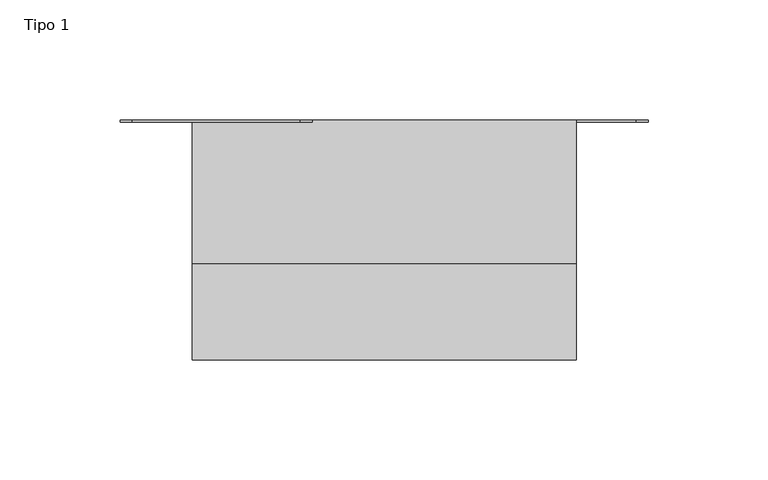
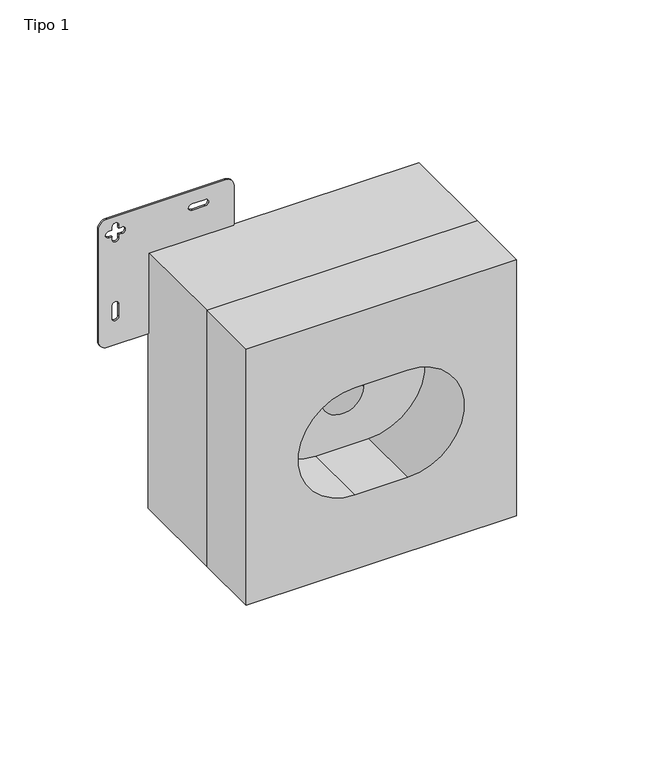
"""IFC4 building model written with IfcOpenShell, lengths in millimetres: proxy geometry, Zeus 503N : Tipo 1."""

from ifc_helpers import new_model, si_unit, point, frame, frame_2d, origin, place, context, project, spatial, polyline, circle_curve, trimmed, segment, composite_curve, outline, extrude, source, transform, mapped, element, save
from ifc_brep_helpers import plane_surface, revolved_surface, advanced_brep


def tipo_1_5fd8f887(model_context):
    return source(origin(), model_context, "Body", "SolidModel", [
        extrude(outline(polyline([(789.7029033, 205.0), (789.7029033, 45.0), (629.7029033, 45.0), (629.7029033, 205.0), (789.7029033, 205.0)]), holes=[composite_curve([segment(polyline([(743.2029033, 109.5071271), (743.2029033, 140.4928729)]), True, "CONTINUOUS"), segment(trimmed(circle_curve(frame_2d((709.7029033, 140.4928729)), 33.5), [point((743.2029033, 140.4928729))], [point((676.2029033, 140.4928729))], True, "CARTESIAN"), True, "CONTINUOUS"), segment(polyline([(676.2029033, 140.4928729), (676.2029033, 109.5071271)]), True, "CONTINUOUS"), segment(trimmed(circle_curve(frame_2d((709.7029033, 109.5071271)), 33.5), [point((676.2029033, 109.5071271))], [point((743.2029033, 109.5071271))], True, "CARTESIAN"), True, "CONTINUOUS")], self_intersect=False)]), frame((0.0, -175.0, 0.0), z_axis=(0.0, 1.0, 0.0), x_axis=(0.0, 0.0, 1.0)), (0.0, 0.0, 1.0), 40.0),
        advanced_brep(
        [(205.0, -135.0, 629.7029033), (205.0, -135.0, 789.7029033), (45.0, -135.0, 789.7029033), (45.0, -135.0, 629.7029033), (137.5, -135.0, 709.7029033), (112.5, -135.0, 709.7029033), (155.0, -75.0, 629.7029033), (45.0, -75.0, 629.7029033), (45.0, -75.0, 739.7029033), (70.2279221, -75.0, 739.7029033), (95.0, -75.0, 764.4749812), (95.0, -75.0, 789.7029033), (205.0, -75.0, 789.7029033), (205.0, -75.0, 679.7029033), (179.7720779, -75.0, 679.7029033), (155.0, -75.0, 654.9308254), (137.5, -75.0, 709.7029033), (112.5, -75.0, 709.7029033), (155.0, -76.0, 629.7029033), (205.0, -76.0, 629.7029033), (45.0, -76.0, 789.7029033), (45.0, -76.0, 739.7029033), (95.0, -76.0, 789.7029033), (205.0, -76.0, 679.7029033), (155.0, -76.0, 654.9308254), (179.7720779, -76.0, 679.7029033), (95.0, -76.0, 764.4749812), (70.2279221, -76.0, 739.7029033)],
        [
            (0, 1),
            (1, 2),
            (2, 3),
            (3, 0),
            (4, 5, circle_curve(frame((125.0, -135.0, 709.7029033), z_axis=(0.0, 1.0, 0.0), x_axis=(-1.0, 0.0, 0.0)), 12.5)),
            (5, 4, circle_curve(frame((125.0, -135.0, 709.7029033), z_axis=(0.0, 1.0, 0.0), x_axis=(-1.0, 0.0, 0.0)), 12.5)),
            (6, 7),
            (7, 8),
            (8, 9),
            (9, 10),
            (10, 11),
            (11, 12),
            (12, 13),
            (13, 14),
            (14, 15),
            (15, 6),
            (16, 17, circle_curve(frame((125.0, -75.0, 709.7029033), z_axis=(0.0, -1.0, 0.0), x_axis=(-1.0, 0.0, 0.0)), 12.5)),
            (17, 16, circle_curve(frame((125.0, -75.0, 709.7029033), z_axis=(0.0, -1.0, 0.0), x_axis=(-1.0, 0.0, 0.0)), 12.5)),
            (3, 7),
            (6, 18),
            (18, 19),
            (19, 0),
            (2, 20),
            (20, 21),
            (21, 8),
            (1, 12),
            (11, 22),
            (22, 20),
            (19, 23),
            (23, 13),
            (18, 24),
            (24, 25),
            (25, 23),
            (22, 26),
            (26, 27),
            (27, 21),
            (25, 14),
            (24, 15),
            (27, 9),
            (26, 10),
            (4, 16),
            (17, 5),
        ],
        [
            plane_surface(frame((205.0, -135.0, 629.7029033), z_axis=(0.0, -1.0, 0.0), x_axis=(0.0, 0.0, 1.0))),
            plane_surface(frame((205.0, -75.0, 629.7029033), z_axis=(0.0, 1.0, 0.0), x_axis=(0.0, 0.0, -1.0))),
            plane_surface(frame((45.0, -135.0, 629.7029033), z_axis=(0.0, 0.0, -1.0), x_axis=(0.0, 1.0, 0.0))),
            plane_surface(frame((45.0, -135.0, 789.7029033), z_axis=(-1.0, 0.0, 0.0), x_axis=(0.0, 1.0, 0.0))),
            plane_surface(frame((205.0, -135.0, 789.7029033), z_axis=(0.0, 0.0, 1.0), x_axis=(0.0, 1.0, 0.0))),
            plane_surface(frame((205.0, -135.0, 629.7029033), z_axis=(1.0, 0.0, 0.0), x_axis=(0.0, 1.0, 0.0))),
            plane_surface(frame((204.886039, -76.0, 629.7029033), z_axis=(0.0, 1.0, 0.0), x_axis=(1.0, 0.0, 0.0))),
            plane_surface(frame((204.886039, -76.0, 679.7029033), z_axis=(0.0, 0.0, -1.0), x_axis=(0.0, 1.0, 0.0))),
            plane_surface(frame((179.7720779, -76.0, 679.7029033), z_axis=(0.7071067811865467, 0.0, -0.7071067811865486), x_axis=(0.0, 1.0, 0.0))),
            plane_surface(frame((155.0, -76.0, 654.9308254), z_axis=(1.0, 0.0, 0.0), x_axis=(0.0, 1.0, 0.0))),
            plane_surface(frame((45.113961, -76.0, 739.7029033), z_axis=(0.0, 0.0, 1.0), x_axis=(0.0, 1.0, 0.0))),
            plane_surface(frame((70.2279221, -76.0, 739.7029033), z_axis=(-0.7071067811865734, 0.0, 0.7071067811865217), x_axis=(0.0, 1.0, 0.0))),
            plane_surface(frame((95.0, -76.0, 764.4749812), z_axis=(-1.0, 0.0, 0.0), x_axis=(0.0, 1.0, 0.0))),
            revolved_surface(polyline([(112.5, -75.0, 709.7029033), (112.5, -135.0, 709.7029033)]), (125.0, -75.0, 709.7029033), (0.0, 1.0, 0.0)),
        ],
        [
            (0, [[1, 2, 3, 4], [5, 6]]),
            (1, [[7, 8, 9, 10, 11, 12, 13, 14, 15, 16], [17, 18]]),
            (2, [[-4, 19, -7, 20, 21, 22]]),
            (3, [[-3, 23, 24, 25, -8, -19]]),
            (4, [[-2, 26, -12, 27, 28, -23]]),
            (5, [[-1, -22, 29, 30, -13, -26]]),
            (6, [[31, 32, 33, -29, -21]]),
            (6, [[34, 35, 36, -24, -28]]),
            (7, [[-33, 37, -14, -30]]),
            (8, [[-32, 38, -15, -37]]),
            (9, [[-31, -20, -16, -38]]),
            (10, [[-36, 39, -9, -25]]),
            (11, [[-35, 40, -10, -39]]),
            (12, [[-34, -27, -11, -40]]),
            (13, [[-5, 41, -18, 42]]),
            (13, [[-6, -42, -17, -41]]),
        ],
    ),
        extrude(outline(composite_curve([segment(polyline([(764.4749812, 95.0), (814.7029033, 95.0)]), True, "CONTINUOUS"), segment(trimmed(circle_curve(frame_2d((814.7029033, 90.0)), 5.0), [point((814.7029033, 95.0))], [point((819.7029033, 90.0))], False, "CARTESIAN"), True, "CONTINUOUS"), segment(polyline([(819.7029033, 90.0), (819.7029033, 20.0)]), True, "CONTINUOUS"), segment(trimmed(circle_curve(frame_2d((814.7029033, 20.0)), 5.0), [point((819.7029033, 20.0))], [point((814.7029033, 15.0))], False, "CARTESIAN"), True, "CONTINUOUS"), segment(polyline([(814.7029033, 15.0), (744.7029033, 15.0)]), True, "CONTINUOUS"), segment(trimmed(circle_curve(frame_2d((744.7029033, 20.0)), 5.0), [point((744.7029033, 15.0))], [point((739.7029033, 20.0))], False, "CARTESIAN"), True, "CONTINUOUS"), segment(polyline([(739.7029033, 20.0), (739.7029033, 70.2279221), (764.4749812, 95.0)]), True, "CONTINUOUS")], self_intersect=False), holes=[composite_curve([segment(trimmed(circle_curve(frame_2d((756.6526578, 25.0)), 1.9497544), [point((756.6526578, 26.9497544))], [point((756.6526578, 23.0502456))], True, "CARTESIAN"), True, "CONTINUOUS"), segment(polyline([(756.6526578, 23.0502456), (764.4516756, 23.0502456)]), True, "CONTINUOUS"), segment(trimmed(circle_curve(frame_2d((764.4516756, 25.0)), 1.9497544), [point((764.4516756, 23.0502456))], [point((764.4516756, 26.9497544))], True, "CARTESIAN"), True, "CONTINUOUS"), segment(polyline([(764.4516756, 26.9497544), (756.6526578, 26.9497544)]), True, "CONTINUOUS")], self_intersect=False), composite_curve([segment(trimmed(circle_curve(frame_2d((805.8033944, 25.0)), 1.9497544), [point((805.8033944, 26.9497544))], [point((805.8033944, 23.0502456))], True, "CARTESIAN"), True, "CONTINUOUS"), segment(polyline([(805.8033944, 23.0502456), (807.7531489, 23.0502456), (807.7531489, 21.1004911)]), True, "CONTINUOUS"), segment(trimmed(circle_curve(frame_2d((809.7029033, 21.1004911)), 1.9497544), [point((807.7531489, 21.1004911))], [point((811.6526578, 21.1004911))], True, "CARTESIAN"), True, "CONTINUOUS"), segment(polyline([(811.6526578, 21.1004911), (811.6526578, 23.0502456), (813.6024122, 23.0502456)]), True, "CONTINUOUS"), segment(trimmed(circle_curve(frame_2d((813.6024122, 25.0)), 1.9497544), [point((813.6024122, 23.0502456))], [point((813.6024122, 26.9497544))], True, "CARTESIAN"), True, "CONTINUOUS"), segment(polyline([(813.6024122, 26.9497544), (811.6526578, 26.9497544), (811.6526578, 28.8995089)]), True, "CONTINUOUS"), segment(trimmed(circle_curve(frame_2d((809.7029033, 28.8995089)), 1.9497544), [point((811.6526578, 28.8995089))], [point((807.7531489, 28.8995089))], True, "CARTESIAN"), True, "CONTINUOUS"), segment(polyline([(807.7531489, 28.8995089), (807.7531489, 26.9497544), (805.8033944, 26.9497544)]), True, "CONTINUOUS")], self_intersect=False), composite_curve([segment(trimmed(circle_curve(frame_2d((809.7029033, 70.2512278)), 1.9497544), [point((807.7531489, 70.2512278))], [point((811.6526578, 70.2512278))], True, "CARTESIAN"), True, "CONTINUOUS"), segment(polyline([(811.6526578, 70.2512278), (811.6526578, 78.0502456)]), True, "CONTINUOUS"), segment(trimmed(circle_curve(frame_2d((809.7029033, 78.0502456)), 1.9497544), [point((811.6526578, 78.0502456))], [point((807.7531489, 78.0502456))], True, "CARTESIAN"), True, "CONTINUOUS"), segment(polyline([(807.7531489, 78.0502456), (807.7531489, 70.2512278)]), True, "CONTINUOUS")], self_intersect=False)]), frame((0.0, -76.0, 0.0), z_axis=(0.0, 1.0, 0.0), x_axis=(0.0, 0.0, 1.0)), (0.0, 0.0, 1.0), 1.0),
        extrude(outline(composite_curve([segment(polyline([(654.9308254, 155.0), (604.7029033, 155.0)]), True, "CONTINUOUS"), segment(trimmed(circle_curve(frame_2d((604.7029033, 160.0)), 5.0), [point((604.7029033, 155.0))], [point((599.7029033, 160.0))], False, "CARTESIAN"), True, "CONTINUOUS"), segment(polyline([(599.7029033, 160.0), (599.7029033, 230.0)]), True, "CONTINUOUS"), segment(trimmed(circle_curve(frame_2d((604.7029033, 230.0)), 5.0), [point((599.7029033, 230.0))], [point((604.7029033, 235.0))], False, "CARTESIAN"), True, "CONTINUOUS"), segment(polyline([(604.7029033, 235.0), (674.7029033, 235.0)]), True, "CONTINUOUS"), segment(trimmed(circle_curve(frame_2d((674.7029033, 230.0)), 5.0), [point((674.7029033, 235.0))], [point((679.7029033, 230.0))], False, "CARTESIAN"), True, "CONTINUOUS"), segment(polyline([(679.7029033, 230.0), (679.7029033, 179.7720779), (654.9308254, 155.0)]), True, "CONTINUOUS")], self_intersect=False), holes=[composite_curve([segment(trimmed(circle_curve(frame_2d((662.7531489, 225.0)), 1.9497544), [point((662.7531489, 223.0502456))], [point((662.7531489, 226.9497544))], True, "CARTESIAN"), True, "CONTINUOUS"), segment(polyline([(662.7531489, 226.9497544), (654.9541311, 226.9497544)]), True, "CONTINUOUS"), segment(trimmed(circle_curve(frame_2d((654.9541311, 225.0)), 1.9497544), [point((654.9541311, 226.9497544))], [point((654.9541311, 223.0502456))], True, "CARTESIAN"), True, "CONTINUOUS"), segment(polyline([(654.9541311, 223.0502456), (662.7531489, 223.0502456)]), True, "CONTINUOUS")], self_intersect=False), composite_curve([segment(trimmed(circle_curve(frame_2d((609.7029033, 228.8995089)), 1.9497544), [point((611.6526578, 228.8995089))], [point((607.7531489, 228.8995089))], True, "CARTESIAN"), True, "CONTINUOUS"), segment(polyline([(607.7531489, 228.8995089), (607.7531489, 226.9497544), (605.8033944, 226.9497544)]), True, "CONTINUOUS"), segment(trimmed(circle_curve(frame_2d((605.8033944, 225.0)), 1.9497544), [point((605.8033944, 226.9497544))], [point((605.8033944, 223.0502456))], True, "CARTESIAN"), True, "CONTINUOUS"), segment(polyline([(605.8033944, 223.0502456), (607.7531489, 223.0502456), (607.7531489, 221.1004911)]), True, "CONTINUOUS"), segment(trimmed(circle_curve(frame_2d((609.7029033, 221.1004911)), 1.9497544), [point((607.7531489, 221.1004911))], [point((611.6526578, 221.1004911))], True, "CARTESIAN"), True, "CONTINUOUS"), segment(polyline([(611.6526578, 221.1004911), (611.6526578, 223.0502456), (613.6024122, 223.0502456)]), True, "CONTINUOUS"), segment(trimmed(circle_curve(frame_2d((613.6024122, 225.0)), 1.9497544), [point((613.6024122, 223.0502456))], [point((613.6024122, 226.9497544))], True, "CARTESIAN"), True, "CONTINUOUS"), segment(polyline([(613.6024122, 226.9497544), (611.6526578, 226.9497544), (611.6526578, 228.8995089)]), True, "CONTINUOUS")], self_intersect=False), composite_curve([segment(trimmed(circle_curve(frame_2d((609.7029033, 171.9497544)), 1.9497544), [point((607.7531489, 171.9497544))], [point((611.6526578, 171.9497544))], True, "CARTESIAN"), True, "CONTINUOUS"), segment(polyline([(611.6526578, 171.9497544), (611.6526578, 179.7487722)]), True, "CONTINUOUS"), segment(trimmed(circle_curve(frame_2d((609.7029033, 179.7487722)), 1.9497544), [point((611.6526578, 179.7487722))], [point((607.7531489, 179.7487722))], True, "CARTESIAN"), True, "CONTINUOUS"), segment(polyline([(607.7531489, 179.7487722), (607.7531489, 171.9497544)]), True, "CONTINUOUS")], self_intersect=False)]), frame((0.0, -76.0, 0.0), z_axis=(0.0, 1.0, 0.0), x_axis=(0.0, 0.0, 1.0)), (0.0, 0.0, 1.0), 1.0),
    ])


if __name__ == "__main__":
    model = new_model("IFC4")
    model_context = context("Model", 3, world=origin())
    ifc_project = project(units=[si_unit("LENGTHUNIT", "METRE", prefix="MILLI")], contexts=[model_context])
    site = spatial("IfcSite", under=ifc_project)
    building = spatial("IfcBuilding", under=site)
    placement = place(None, origin())
    tipo_1_shape = tipo_1_5fd8f887(model_context)
    element("IfcBuildingElementProxy", 1, Name="Zeus 503N : Tipo 1", ObjectType="Zeus 503N : Tipo 1", at=placement, inside=building, context=model_context, shape_type="MappedRepresentation", body=[
        mapped(tipo_1_shape, transform((0.0, 0.0, 0.0), x_axis=(1.0, 0.0, 0.0), y_axis=(0.0, 1.0, 0.0), z_axis=(0.0, 0.0, 1.0))),
    ])
    save(model, "model.ifc")
